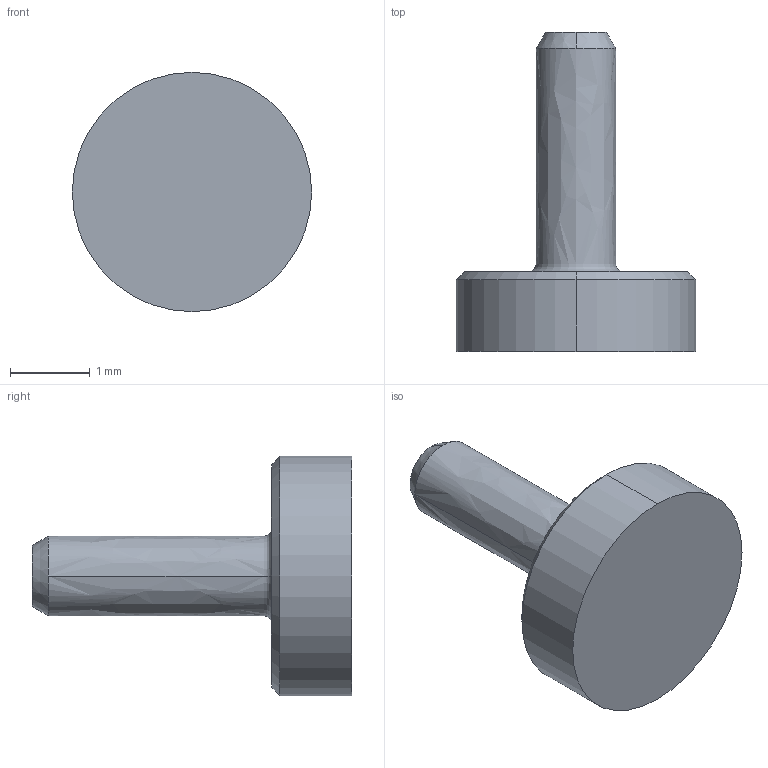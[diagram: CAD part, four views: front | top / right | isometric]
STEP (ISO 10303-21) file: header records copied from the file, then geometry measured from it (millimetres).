
FILE_DESCRIPTION (( 'STEP AP214' ), '1' );
FILE_NAME ('IPG3.STEP', '2021-07-20T10:24:43', ( '' ), ( '' ), 'SwSTEP 2.0', 'SolidWorks 2021', '' );
FILE_SCHEMA (( 'AUTOMOTIVE_DESIGN' ));
Length unit declared in the file: millimetre
Products named in the file (1): IPG3
Bounding box: 3 x 4 x 3 mm (x, y, z)
Volume: 9.4 mm3; surface area: 31.9 mm2
Topology: 1 solids, 1 shells, 10 faces, 22 edges, 14 vertices
Faces by surface type: cone 4, cylinder 2, bspline 2, plane 2
Entity records: 384 total; most frequent: CARTESIAN_POINT 127, DIRECTION 52, ORIENTED_EDGE 44, AXIS2_PLACEMENT_3D 23, EDGE_CURVE 22, VERTEX_POINT 14, CIRCLE 14, ADVANCED_FACE 10
